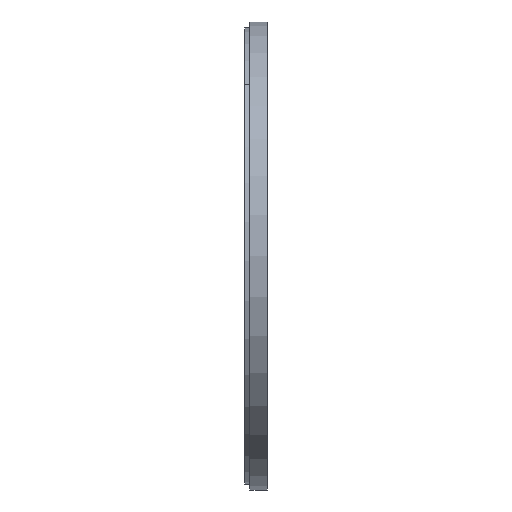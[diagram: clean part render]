
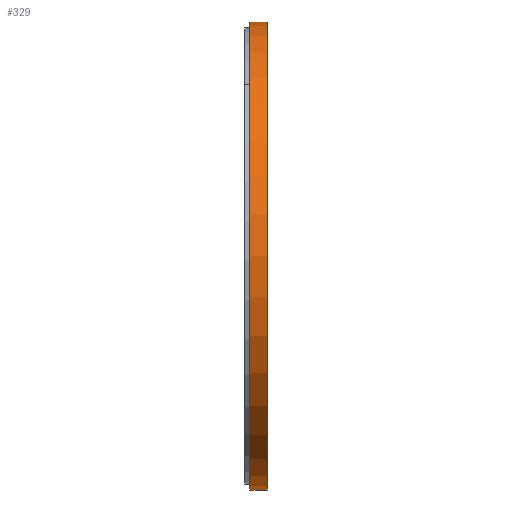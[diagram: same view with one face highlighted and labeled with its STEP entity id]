
A CAD part, left-side view. The second image highlights one B-rep face of the part: STEP entity #329.
In plain terms, the highlighted cylindrical face has radius 40 mm (diameter 80 mm), a partial arc.
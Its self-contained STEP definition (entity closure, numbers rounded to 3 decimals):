
#136 = CIRCLE ( 'NONE', #168, 40. ) ;
#142 = VERTEX_POINT ( 'NONE', #1019 ) ;
#168 = AXIS2_PLACEMENT_3D ( 'NONE', #1525, #211, #817 ) ;
#211 = DIRECTION ( 'NONE',  ( 0., -1., 0. ) ) ;
#250 = CARTESIAN_POINT ( 'NONE',  ( 0., 0., -40. ) ) ;
#285 = EDGE_CURVE ( 'NONE', #815, #142, #1459, .T. ) ;
#315 = EDGE_CURVE ( 'NONE', #815, #813, #354, .T. ) ;
#329 = ADVANCED_FACE ( 'NONE', ( #669 ), #792, .T. ) ;
#348 = EDGE_CURVE ( 'NONE', #813, #1442, #136, .T. ) ;
#354 = LINE ( 'NONE', #1062, #517 ) ;
#360 = ORIENTED_EDGE ( 'NONE', *, *, #315, .F. ) ;
#465 = CARTESIAN_POINT ( 'NONE',  ( 0., -3.244, -40. ) ) ;
#485 = CARTESIAN_POINT ( 'NONE',  ( 0., 3., 40. ) ) ;
#517 = VECTOR ( 'NONE', #1529, 1000. ) ;
#590 = DIRECTION ( 'NONE',  ( 0., 0., -1. ) ) ;
#617 = ORIENTED_EDGE ( 'NONE', *, *, #348, .F. ) ;
#669 = FACE_OUTER_BOUND ( 'NONE', #1428, .T. ) ;
#693 = ORIENTED_EDGE ( 'NONE', *, *, #285, .T. ) ;
#705 = CARTESIAN_POINT ( 'NONE',  ( 0., -3.244, 0. ) ) ;
#711 = CARTESIAN_POINT ( 'NONE',  ( 0., 3., 0. ) ) ;
#792 = CYLINDRICAL_SURFACE ( 'NONE', #805, 40. ) ;
#805 = AXIS2_PLACEMENT_3D ( 'NONE', #705, #1301, #1168 ) ;
#807 = CARTESIAN_POINT ( 'NONE',  ( 0., 0., 40. ) ) ;
#813 = VERTEX_POINT ( 'NONE', #807 ) ;
#815 = VERTEX_POINT ( 'NONE', #485 ) ;
#816 = EDGE_CURVE ( 'NONE', #142, #1442, #950, .T. ) ;
#817 = DIRECTION ( 'NONE',  ( 0., 0., -1. ) ) ;
#950 = LINE ( 'NONE', #465, #1352 ) ;
#1019 = CARTESIAN_POINT ( 'NONE',  ( 0., 3., -40. ) ) ;
#1062 = CARTESIAN_POINT ( 'NONE',  ( 0., -3.244, 40. ) ) ;
#1073 = DIRECTION ( 'NONE',  ( 0., -1., 0. ) ) ;
#1141 = AXIS2_PLACEMENT_3D ( 'NONE', #711, #1412, #590 ) ;
#1168 = DIRECTION ( 'NONE',  ( 0., 0., -1. ) ) ;
#1213 = ORIENTED_EDGE ( 'NONE', *, *, #816, .T. ) ;
#1301 = DIRECTION ( 'NONE',  ( 0., -1., 0. ) ) ;
#1352 = VECTOR ( 'NONE', #1073, 1000. ) ;
#1412 = DIRECTION ( 'NONE',  ( 0., -1., 0. ) ) ;
#1428 = EDGE_LOOP ( 'NONE', ( #360, #693, #1213, #617 ) ) ;
#1442 = VERTEX_POINT ( 'NONE', #250 ) ;
#1459 = CIRCLE ( 'NONE', #1141, 40. ) ;
#1525 = CARTESIAN_POINT ( 'NONE',  ( 0., 0., 0. ) ) ;
#1529 = DIRECTION ( 'NONE',  ( 0., -1., 0. ) ) ;
